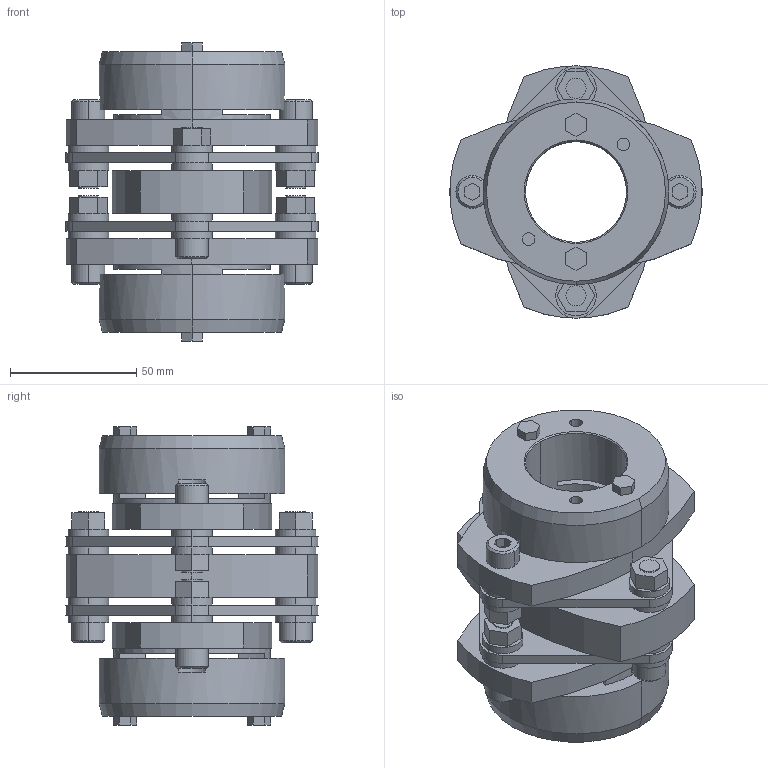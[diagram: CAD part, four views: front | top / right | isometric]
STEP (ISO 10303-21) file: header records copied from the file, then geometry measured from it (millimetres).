
FILE_DESCRIPTION((''),'2;1');
FILE_NAME('LCD-100T7-40×40.stp','2011-09-09T09:07:53',(''),(''),'AutoCAD STEP 2000i','AutoCAD 2000i',', , ');
FILE_SCHEMA(('CONFIG_CONTROL_DESIGN'));
Length unit declared in the file: millimetre
Products named in the file (10): LCD-100T7-38×38; 忣兜1; LC100T7-T038-1; LC100T7-T038; LC100T7-T035; LC100T7-T030; LC100T7-T025; LC100T7-T022-1; LC100T7-T022; LCD100-ITA
Assembly tree (9 placements, depth 2):
  LCD-100T7-38×38
    忣兜1
    LC100T7-T038-1
    LC100T7-T038
    LC100T7-T035
    LC100T7-T030
    LC100T7-T025
    LC100T7-T022-1
    LC100T7-T022
    LCD100-ITA
Bounding box: 100 x 99.93 x 118 mm (x, y, z)
Volume: 350502.3 mm3; surface area: 91784.1 mm2
Topology: 1 solids, 1 shells, 314 faces, 768 edges, 504 vertices
Faces by surface type: plane 166, cylinder 124, cone 24
Entity records: 9569 total; most frequent: DIRECTION 1712, CARTESIAN_POINT 1596, ORIENTED_EDGE 1536, EDGE_CURVE 768, AXIS2_PLACEMENT_3D 620, VERTEX_POINT 504, VECTOR 472, LINE 472
